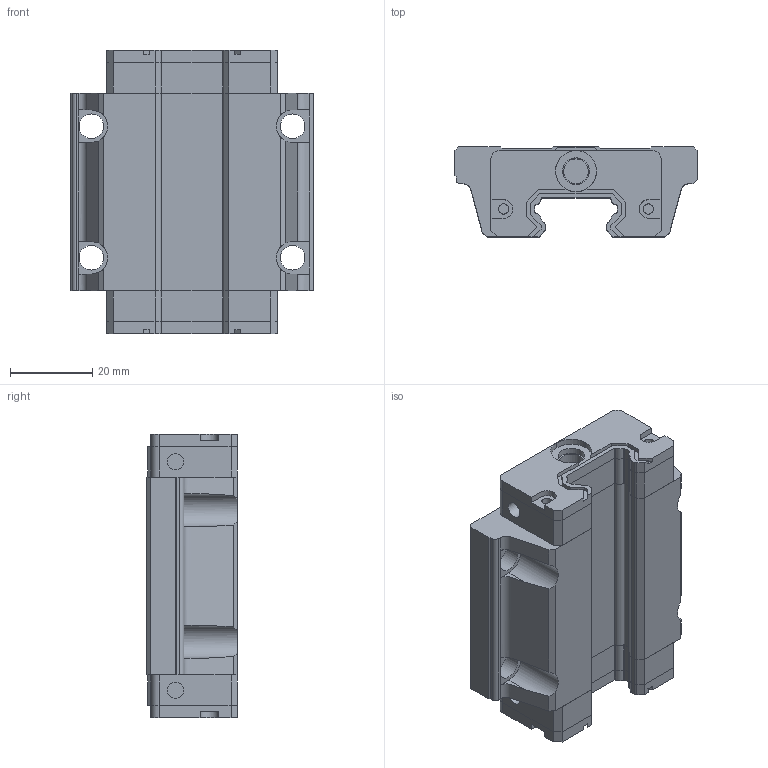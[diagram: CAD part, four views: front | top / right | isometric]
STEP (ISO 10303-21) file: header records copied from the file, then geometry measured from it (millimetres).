
FILE_DESCRIPTION(/* description */ (''),/* implementation_level */ '2;1');
FILE_NAME(/* name */ 'E:\lavoro\RNA20 corretto.step',/* time_stamp */ '2026-08-06T11:29:52+02:00',/* author */ ('spaveluc'),/* organization */ ('TraceParts S.A.S.'),/* preprocessor_version */ 'ST-DEVELOPER v18.1',/* originating_system */ 'AutoCAD Mechanical',/* authorisation */ ' ');
FILE_SCHEMA (('AUTOMOTIVE_DESIGN { 1 0 10303 214 3 1 1 }'));
Length unit declared in the file: millimetre
Products named in the file (3): Product1; 1; Product
Assembly tree (2 placements, depth 2):
  Product1
    1
    Product
Bounding box: 59 x 22 x 69.1 mm (x, y, z)
Volume: 58661.6 mm3; surface area: 20676.7 mm2
Topology: 5 solids, 5 shells, 323 faces, 921 edges, 614 vertices
Faces by surface type: plane 202, cylinder 107, bspline 14
Full cylindrical faces by diameter (mm): 2.5 x8, 4 x4, 6 x8, 6.5 x2
Entity records: 11191 total; most frequent: CARTESIAN_POINT 2487, ORIENTED_EDGE 1846, DIRECTION 1765, EDGE_CURVE 923, LINE 653, VECTOR 653, VERTEX_POINT 614, AXIS2_PLACEMENT_3D 556
